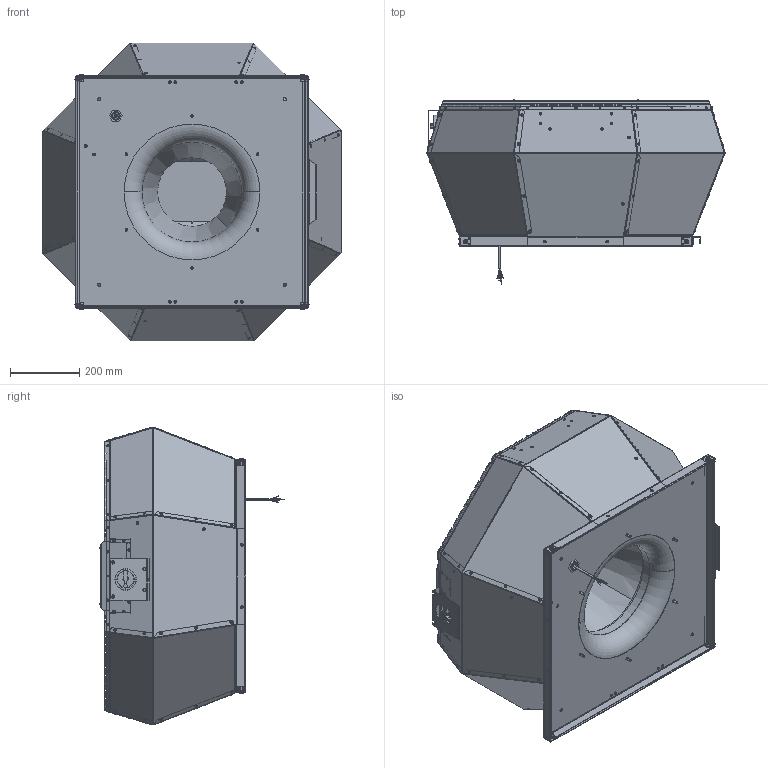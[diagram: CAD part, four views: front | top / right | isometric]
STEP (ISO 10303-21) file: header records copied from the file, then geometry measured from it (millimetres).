
FILE_DESCRIPTION (( 'STEP AP203' ), '1' );
FILE_NAME ('139223-00_DVA450ECP31.STEP', '2017-03-28T09:08:06', ( '' ), ( '' ), 'SwSTEP 2.0', 'SolidWorks 2012', '' );
FILE_SCHEMA (( 'CONFIG_CONTROL_DESIGN' ));
Length unit declared in the file: millimetre
Products named in the file (1): 139223-00_DVA450ECP31
Bounding box: 860.46 x 531.58 x 860.13 mm (x, y, z)
Surface area: 4488389.1 mm2 (no closed solid volume)
Topology: 0 solids, 311 shells, 4408 faces, 14884 edges, 10400 vertices
Faces by surface type: plane 3202, cylinder 692, torus 435, bspline 48, cone 30, sphere 1
Entity records: 163360 total; most frequent: CARTESIAN_POINT 35239, DIRECTION 26251, ORIENTED_EDGE 22707, EDGE_CURVE 14883, VECTOR 10799, LINE 10799, VERTEX_POINT 10400, AXIS2_PLACEMENT_3D 7726
